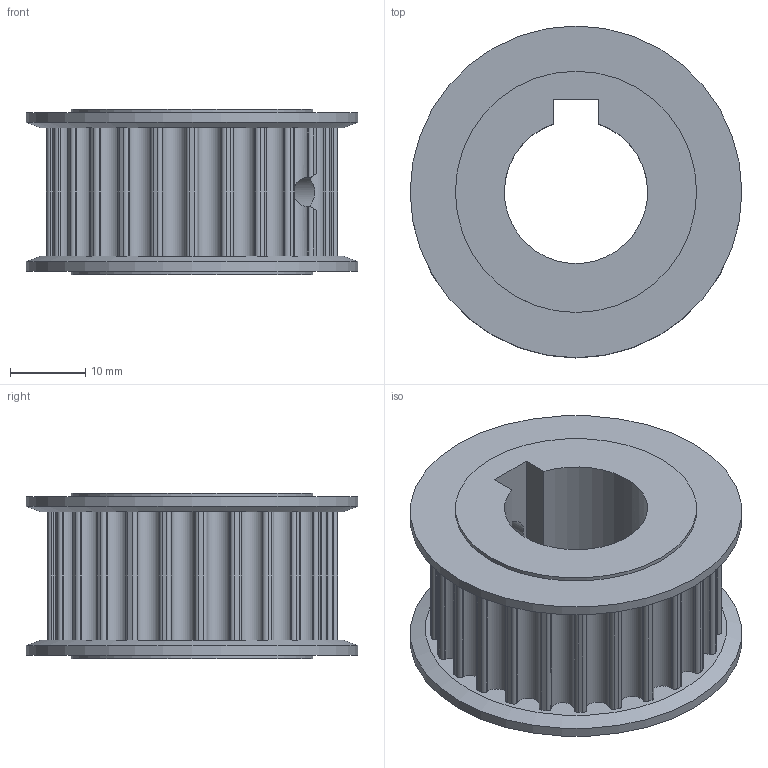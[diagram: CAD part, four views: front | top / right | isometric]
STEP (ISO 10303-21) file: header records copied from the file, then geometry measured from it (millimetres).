
FILE_DESCRIPTION(('STEP AP214'), '1');
FILE_NAME('BSY 25 5M-15 A N19 - 崹魤', '', ('UNSPECIFIED'), ('UNSPECIFIED'), 'ASCON STEP Converter 1.3', 'ASCON Math Kernel', '');
FILE_SCHEMA(('AUTOMOTIVE_DESIGN { 1 0 10303 214 3 1 1}'));
Length unit declared in the file: millimetre
Bounding box: 44 x 44 x 22 mm (x, y, z)
Volume: 17295.8 mm3; surface area: 8524.6 mm2
Topology: 1 solids, 1 shells, 178 faces, 520 edges, 346 vertices
Faces by surface type: cylinder 113, plane 63, cone 2
Full cylindrical faces by diameter (mm): 4.917 x2, 32 x2, 44 x2
Entity records: 8047 total; most frequent: CARTESIAN_POINT 1730, DIRECTION 1056, ORIENTED_EDGE 1024, EDGE_CURVE 512, AXIS2_PLACEMENT_3D 392, VERTEX_POINT 346, LINE 272, VECTOR 272
